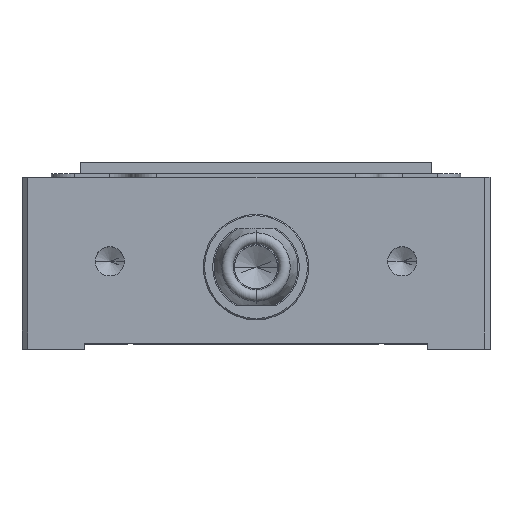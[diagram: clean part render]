
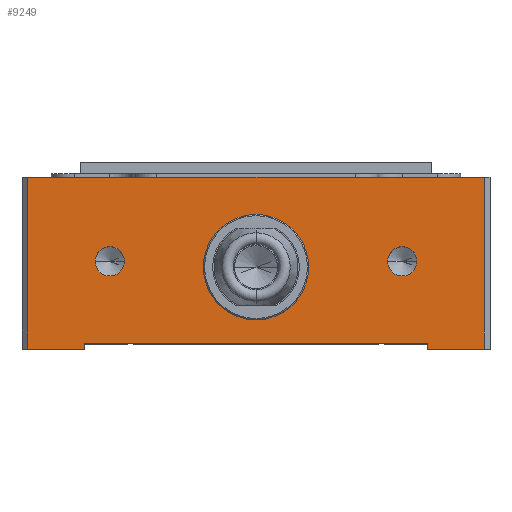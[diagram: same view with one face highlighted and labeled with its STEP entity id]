
A CAD part, top view. The second image highlights one B-rep face of the part: STEP entity #9249.
In plain terms, the highlighted planar face has unit normal (0, 0, 1).
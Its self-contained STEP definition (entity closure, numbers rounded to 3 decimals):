
#80 = VERTEX_POINT ( 'NONE', #10568 ) ;
#239 = EDGE_CURVE ( 'NONE', #1574, #6533, #10482, .T. ) ;
#553 = DIRECTION ( 'NONE',  ( 0., -1., 0. ) ) ;
#677 = EDGE_LOOP ( 'NONE', ( #2110, #11466 ) ) ;
#723 = ORIENTED_EDGE ( 'NONE', *, *, #920, .T. ) ;
#739 = ORIENTED_EDGE ( 'NONE', *, *, #239, .F. ) ;
#920 = EDGE_CURVE ( 'NONE', #11452, #3976, #10589, .T. ) ;
#994 = ORIENTED_EDGE ( 'NONE', *, *, #11978, .T. ) ;
#1046 = CARTESIAN_POINT ( 'NONE',  ( 14.7, 0.5, 20. ) ) ;
#1172 = DIRECTION ( 'NONE',  ( 0., 0., 1. ) ) ;
#1258 = ORIENTED_EDGE ( 'NONE', *, *, #3018, .T. ) ;
#1272 = EDGE_CURVE ( 'NONE', #9326, #8614, #9965, .T. ) ;
#1348 = LINE ( 'NONE', #6536, #9771 ) ;
#1475 = ORIENTED_EDGE ( 'NONE', *, *, #2861, .F. ) ;
#1574 = VERTEX_POINT ( 'NONE', #4368 ) ;
#1604 = DIRECTION ( 'NONE',  ( 0., 1., 0. ) ) ;
#1660 = ORIENTED_EDGE ( 'NONE', *, *, #12351, .T. ) ;
#1759 = EDGE_CURVE ( 'NONE', #12522, #8270, #2674, .T. ) ;
#1841 = CARTESIAN_POINT ( 'NONE',  ( -14.7, 0., 20. ) ) ;
#1938 = VECTOR ( 'NONE', #5132, 1000. ) ;
#2110 = ORIENTED_EDGE ( 'NONE', *, *, #4301, .F. ) ;
#2143 = EDGE_CURVE ( 'NONE', #13336, #5427, #11057, .T. ) ;
#2175 = DIRECTION ( 'NONE',  ( 1., 0., 0. ) ) ;
#2303 = DIRECTION ( 'NONE',  ( 0., 0., 1. ) ) ;
#2405 = DIRECTION ( 'NONE',  ( 0., -1., 0. ) ) ;
#2645 = CARTESIAN_POINT ( 'NONE',  ( -14.7, 0.5, 20. ) ) ;
#2660 = DIRECTION ( 'NONE',  ( 1., 0., 0. ) ) ;
#2674 = LINE ( 'NONE', #3657, #13523 ) ;
#2738 = EDGE_CURVE ( 'NONE', #6533, #1574, #4830, .T. ) ;
#2861 = EDGE_CURVE ( 'NONE', #80, #8270, #8319, .T. ) ;
#3009 = CIRCLE ( 'NONE', #3695, 1.25 ) ;
#3018 = EDGE_CURVE ( 'NONE', #8614, #12522, #6632, .T. ) ;
#3129 = DIRECTION ( 'NONE',  ( 1., 0., 0. ) ) ;
#3152 = FACE_BOUND ( 'NONE', #677, .T. ) ;
#3264 = CARTESIAN_POINT ( 'NONE',  ( -19.5, 0., 20. ) ) ;
#3434 = ORIENTED_EDGE ( 'NONE', *, *, #1272, .T. ) ;
#3460 = CIRCLE ( 'NONE', #10623, 4.5 ) ;
#3563 = DIRECTION ( 'NONE',  ( 0., 0., 1. ) ) ;
#3657 = CARTESIAN_POINT ( 'NONE',  ( 19.5, 14.7, 20. ) ) ;
#3695 = AXIS2_PLACEMENT_3D ( 'NONE', #8882, #3563, #13283 ) ;
#3740 = CARTESIAN_POINT ( 'NONE',  ( 14.7, 0., 20. ) ) ;
#3932 = CARTESIAN_POINT ( 'NONE',  ( -20., 0., 20. ) ) ;
#3976 = VERTEX_POINT ( 'NONE', #1841 ) ;
#4130 = DIRECTION ( 'NONE',  ( 0., 0., -1. ) ) ;
#4211 = CARTESIAN_POINT ( 'NONE',  ( -14.7, 57.569, 20. ) ) ;
#4301 = EDGE_CURVE ( 'NONE', #5427, #13336, #3009, .T. ) ;
#4368 = CARTESIAN_POINT ( 'NONE',  ( -13.75, 7.5, 20. ) ) ;
#4459 = DIRECTION ( 'NONE',  ( 0., 0., 1. ) ) ;
#4554 = VECTOR ( 'NONE', #10736, 1000. ) ;
#4630 = VECTOR ( 'NONE', #10524, 1000. ) ;
#4761 = CARTESIAN_POINT ( 'NONE',  ( 0., 7., 20. ) ) ;
#4830 = CIRCLE ( 'NONE', #11549, 1.25 ) ;
#5003 = AXIS2_PLACEMENT_3D ( 'NONE', #11935, #2303, #2175 ) ;
#5132 = DIRECTION ( 'NONE',  ( 1., 0., 0. ) ) ;
#5180 = DIRECTION ( 'NONE',  ( -1., 0., 0. ) ) ;
#5305 = ORIENTED_EDGE ( 'NONE', *, *, #7131, .F. ) ;
#5399 = CARTESIAN_POINT ( 'NONE',  ( -20., 14.7, 20. ) ) ;
#5427 = VERTEX_POINT ( 'NONE', #10559 ) ;
#5455 = DIRECTION ( 'NONE',  ( 1., 0., 0. ) ) ;
#5873 = ORIENTED_EDGE ( 'NONE', *, *, #2738, .F. ) ;
#5874 = AXIS2_PLACEMENT_3D ( 'NONE', #5399, #4130, #5180 ) ;
#6219 = CARTESIAN_POINT ( 'NONE',  ( -11.25, 7.5, 20. ) ) ;
#6533 = VERTEX_POINT ( 'NONE', #6219 ) ;
#6536 = CARTESIAN_POINT ( 'NONE',  ( -19.5, 14.7, 20. ) ) ;
#6632 = LINE ( 'NONE', #9508, #10135 ) ;
#6750 = CARTESIAN_POINT ( 'NONE',  ( 11.25, 7.5, 20. ) ) ;
#7112 = AXIS2_PLACEMENT_3D ( 'NONE', #10787, #1172, #5455 ) ;
#7121 = CARTESIAN_POINT ( 'NONE',  ( -12.5, 7.5, 20. ) ) ;
#7131 = EDGE_CURVE ( 'NONE', #9256, #12700, #11845, .T. ) ;
#7255 = CARTESIAN_POINT ( 'NONE',  ( -20., 14.7, 20. ) ) ;
#7282 = VECTOR ( 'NONE', #9433, 1000. ) ;
#7537 = DIRECTION ( 'NONE',  ( 1., 0., 0. ) ) ;
#7999 = DIRECTION ( 'NONE',  ( 0., 0., 1. ) ) ;
#8181 = DIRECTION ( 'NONE',  ( 0., 0., 1. ) ) ;
#8270 = VERTEX_POINT ( 'NONE', #12575 ) ;
#8319 = LINE ( 'NONE', #7255, #7282 ) ;
#8428 = PLANE ( 'NONE',  #5874 ) ;
#8590 = ORIENTED_EDGE ( 'NONE', *, *, #9314, .F. ) ;
#8614 = VERTEX_POINT ( 'NONE', #3740 ) ;
#8882 = CARTESIAN_POINT ( 'NONE',  ( 12.5, 7.5, 20. ) ) ;
#9221 = DIRECTION ( 'NONE',  ( 1., 0., 0. ) ) ;
#9249 = ADVANCED_FACE ( 'NONE', ( #3152, #10576, #13735, #12900 ), #8428, .F. ) ;
#9256 = VERTEX_POINT ( 'NONE', #12821 ) ;
#9292 = CARTESIAN_POINT ( 'NONE',  ( -4.5, 7., 20. ) ) ;
#9314 = EDGE_CURVE ( 'NONE', #11107, #3976, #10659, .T. ) ;
#9326 = VERTEX_POINT ( 'NONE', #1046 ) ;
#9433 = DIRECTION ( 'NONE',  ( 1., 0., 0. ) ) ;
#9508 = CARTESIAN_POINT ( 'NONE',  ( -20., 0., 20. ) ) ;
#9592 = AXIS2_PLACEMENT_3D ( 'NONE', #10694, #4459, #7537 ) ;
#9771 = VECTOR ( 'NONE', #2405, 1000. ) ;
#9857 = ORIENTED_EDGE ( 'NONE', *, *, #10743, .F. ) ;
#9965 = LINE ( 'NONE', #10234, #11072 ) ;
#10080 = CARTESIAN_POINT ( 'NONE',  ( 19.5, 0., 20. ) ) ;
#10135 = VECTOR ( 'NONE', #3129, 1000. ) ;
#10234 = CARTESIAN_POINT ( 'NONE',  ( 14.7, 57.569, 20. ) ) ;
#10451 = LINE ( 'NONE', #11589, #4630 ) ;
#10482 = CIRCLE ( 'NONE', #7112, 1.25 ) ;
#10524 = DIRECTION ( 'NONE',  ( 1., 0., 0. ) ) ;
#10559 = CARTESIAN_POINT ( 'NONE',  ( 13.75, 7.5, 20. ) ) ;
#10568 = CARTESIAN_POINT ( 'NONE',  ( -19.5, 14.7, 20. ) ) ;
#10576 = FACE_BOUND ( 'NONE', #13005, .T. ) ;
#10589 = LINE ( 'NONE', #3932, #1938 ) ;
#10623 = AXIS2_PLACEMENT_3D ( 'NONE', #4761, #7999, #2660 ) ;
#10659 = LINE ( 'NONE', #4211, #4554 ) ;
#10694 = CARTESIAN_POINT ( 'NONE',  ( 0., 7., 20. ) ) ;
#10736 = DIRECTION ( 'NONE',  ( 0., -1., 0. ) ) ;
#10743 = EDGE_CURVE ( 'NONE', #12700, #9256, #3460, .T. ) ;
#10787 = CARTESIAN_POINT ( 'NONE',  ( -12.5, 7.5, 20. ) ) ;
#11057 = CIRCLE ( 'NONE', #5003, 1.25 ) ;
#11072 = VECTOR ( 'NONE', #553, 1000. ) ;
#11107 = VERTEX_POINT ( 'NONE', #2645 ) ;
#11149 = ORIENTED_EDGE ( 'NONE', *, *, #1759, .T. ) ;
#11208 = EDGE_LOOP ( 'NONE', ( #9857, #5305 ) ) ;
#11452 = VERTEX_POINT ( 'NONE', #3264 ) ;
#11466 = ORIENTED_EDGE ( 'NONE', *, *, #2143, .F. ) ;
#11549 = AXIS2_PLACEMENT_3D ( 'NONE', #7121, #8181, #9221 ) ;
#11589 = CARTESIAN_POINT ( 'NONE',  ( 14.7, 0.5, 20. ) ) ;
#11776 = EDGE_LOOP ( 'NONE', ( #1258, #11149, #1475, #994, #723, #8590, #1660, #3434 ) ) ;
#11845 = CIRCLE ( 'NONE', #9592, 4.5 ) ;
#11935 = CARTESIAN_POINT ( 'NONE',  ( 12.5, 7.5, 20. ) ) ;
#11978 = EDGE_CURVE ( 'NONE', #80, #11452, #1348, .T. ) ;
#12351 = EDGE_CURVE ( 'NONE', #11107, #9326, #10451, .T. ) ;
#12522 = VERTEX_POINT ( 'NONE', #10080 ) ;
#12575 = CARTESIAN_POINT ( 'NONE',  ( 19.5, 14.7, 20. ) ) ;
#12700 = VERTEX_POINT ( 'NONE', #9292 ) ;
#12821 = CARTESIAN_POINT ( 'NONE',  ( 4.5, 7., 20. ) ) ;
#12900 = FACE_OUTER_BOUND ( 'NONE', #11776, .T. ) ;
#13005 = EDGE_LOOP ( 'NONE', ( #5873, #739 ) ) ;
#13283 = DIRECTION ( 'NONE',  ( 1., 0., 0. ) ) ;
#13336 = VERTEX_POINT ( 'NONE', #6750 ) ;
#13523 = VECTOR ( 'NONE', #1604, 1000. ) ;
#13735 = FACE_BOUND ( 'NONE', #11208, .T. ) ;
